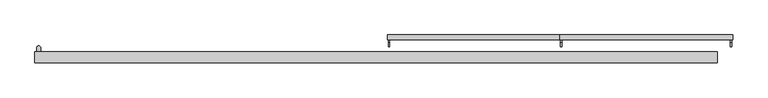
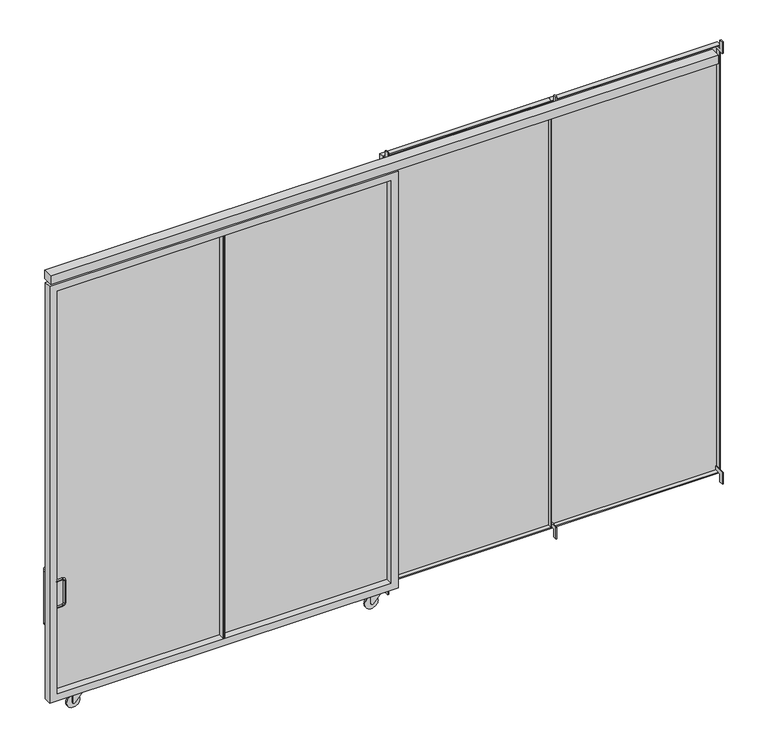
"""IFC4 building model written with IfcOpenShell, lengths in millimetres: furniture geometry, H05 Protección 4 módulos Corredizo lateral : H05 Protección 4 módulos Corredizo lateral 450x315."""

import ifcopenshell
import ifcopenshell.guid

model = None  # the IFC model being written
_history = None  # IfcOwnerHistory: only IFC2X3 demands one
_inside = {}  # id of a spatial element -> (the spatial element, [elements in it])
_under = {}  # id of a project, library or spatial element -> (it, [spatial elements below it])
_declared = {}  # id of a project -> (the project, [libraries it declares])
_typed = {}  # id of a type object -> (the type object, [elements of that type])
_made_of = {}  # id of a material, layer set ... -> (it, [elements and type objects made of it])


def new_model(schema):
    """Start an empty IFC model of exactly this schema.

    Asked for "IFC4X3", IfcOpenShell would pick the latest addendum, in which some entities
    have other attributes; the version numbers below select the first issue.
    IFC2X3 requires an IfcOwnerHistory on every rooted entity: one is made here for all.
    """
    global model, _history
    if schema == "IFC4X3":
        model = ifcopenshell.file(schema_version=(4, 3, 0, 0))
    else:
        model = ifcopenshell.file(schema=schema)
    _inside.clear()
    _under.clear()
    _declared.clear()
    _typed.clear()
    _made_of.clear()
    _history = None
    if model.schema == "IFC2X3":
        org = make("IfcOrganization", Name="unknown")
        user = make(
            "IfcPersonAndOrganization",
            ThePerson=make("IfcPerson", FamilyName="unknown"),
            TheOrganization=org,
        )
        app = make(
            "IfcApplication",
            ApplicationDeveloper=org,
            Version="unknown",
            ApplicationFullName="unknown",
            ApplicationIdentifier="unknown",
        )
        _history = make(
            "IfcOwnerHistory",
            OwningUser=user,
            OwningApplication=app,
            ChangeAction="ADDED",
            CreationDate=0,
        )
    return model


def make(cls, **values):
    """One entity of the class cls with the attributes given. An attribute that is None is left unset."""
    return model.create_entity(
        cls, **{name: value for name, value in values.items() if value is not None}
    )


def rooted(cls, **values):
    """An entity with a GlobalId (a new one), such as an element, a storey or a relation."""
    return make(cls, GlobalId=ifcopenshell.guid.new(), OwnerHistory=_history, **values)


def si_unit(unit_type, name, prefix=None):
    """IfcSIUnit, for example si_unit("LENGTHUNIT", "METRE", prefix="MILLI")."""
    return make("IfcSIUnit", UnitType=unit_type, Prefix=prefix, Name=name)


def assignment(units):
    """IfcUnitAssignment: the units of a project."""
    return None if units is None else make("IfcUnitAssignment", Units=units)


def point(xyz):
    """IfcCartesianPoint."""
    return None if xyz is None else make("IfcCartesianPoint", Coordinates=xyz)


def direction(xyz):
    """IfcDirection."""
    return None if xyz is None else make("IfcDirection", DirectionRatios=xyz)


def frame(location, z_axis=None, x_axis=None):
    """IfcAxis2Placement3D, a coordinate frame: its origin and axes. An axis left out is left unset."""
    return make(
        "IfcAxis2Placement3D",
        Location=point(location),
        Axis=direction(z_axis),
        RefDirection=direction(x_axis),
    )


def frame_2d(location, x_axis=None):
    """IfcAxis2Placement2D, a coordinate frame in the plane: its origin and x axis."""
    return make(
        "IfcAxis2Placement2D", Location=point(location), RefDirection=direction(x_axis)
    )


def origin():
    """The frame at (0, 0, 0) with its axes left unset."""
    return frame((0.0, 0.0, 0.0))


def place(relative_to, where):
    """IfcLocalPlacement: puts the frame where relative to a parent placement (None: the world)."""
    return make(
        "IfcLocalPlacement", PlacementRelTo=relative_to, RelativePlacement=where
    )


def context(
    kind, dimensions, precision=None, world=None, true_north=None, identifier=None
):
    """IfcGeometricRepresentationContext, for example the 3D "Model" context."""
    return make(
        "IfcGeometricRepresentationContext",
        ContextIdentifier=identifier,
        ContextType=kind,
        CoordinateSpaceDimension=dimensions,
        Precision=precision,
        WorldCoordinateSystem=world,
        TrueNorth=true_north,
    )


def project(units=None, contexts=None):
    """IfcProject with its units and contexts."""
    return rooted(
        "IfcProject",
        Name="project",
        RepresentationContexts=contexts,
        UnitsInContext=assignment(units),
    )


def spatial(cls, under=None, at=None, **own):
    """A site, building, storey or space (cls), placed at a placement, below another one or the project."""
    s = rooted(cls, ObjectPlacement=at, **own)
    if under is not None:
        _under.setdefault(under.id(), (under, []))[1].append(s)
    return s


def polyline(points):
    """IfcPolyline through the points."""
    return make("IfcPolyline", Points=[point(p) for p in points])


def circle_curve(where, radius):
    """IfcCircle in the frame where."""
    return make("IfcCircle", Position=where, Radius=radius)


def ellipse_curve(where, semi_axis1, semi_axis2):
    """IfcEllipse in the frame where."""
    return make(
        "IfcEllipse", Position=where, SemiAxis1=semi_axis1, SemiAxis2=semi_axis2
    )


def trimmed(basis, trim1, trim2, sense, master):
    """IfcTrimmedCurve: the piece of a basis curve between two trims."""
    return make(
        "IfcTrimmedCurve",
        BasisCurve=basis,
        Trim1=trim1,
        Trim2=trim2,
        SenseAgreement=sense,
        MasterRepresentation=master,
    )


def segment(curve, same_sense, transition):
    """IfcCompositeCurveSegment."""
    return make(
        "IfcCompositeCurveSegment",
        Transition=transition,
        SameSense=same_sense,
        ParentCurve=curve,
    )


def composite_curve(segments, self_intersect=None):
    """IfcCompositeCurve: segments joined end to end."""
    return make("IfcCompositeCurve", Segments=segments, SelfIntersect=self_intersect)


def outline(outer, holes=None, kind="AREA"):
    """IfcArbitraryClosedProfileDef: a profile drawn as a closed curve; with holes, ...WithVoids."""
    if holes is None:
        return make("IfcArbitraryClosedProfileDef", ProfileType=kind, OuterCurve=outer)
    return make(
        "IfcArbitraryProfileDefWithVoids",
        ProfileType=kind,
        OuterCurve=outer,
        InnerCurves=holes,
    )


def extrude(swept, where, along, depth):
    """IfcExtrudedAreaSolid: the profile swept, set in the frame where, extruded along a direction by depth."""
    return make(
        "IfcExtrudedAreaSolid",
        SweptArea=swept,
        Position=where,
        ExtrudedDirection=direction(along),
        Depth=depth,
    )


def shape(context_of_items, identifier, shape_type, items):
    """IfcShapeRepresentation: the items that make up one representation, for example the "Body"."""
    return make(
        "IfcShapeRepresentation",
        ContextOfItems=context_of_items,
        RepresentationIdentifier=identifier,
        RepresentationType=shape_type,
        Items=items,
    )


def source(mapping_origin, context_of_items, identifier, shape_type, items):
    """IfcRepresentationMap: a shape defined once, which mapped items show again and again."""
    return make(
        "IfcRepresentationMap",
        MappingOrigin=mapping_origin,
        MappedRepresentation=shape(context_of_items, identifier, shape_type, items),
    )


def transform(
    local_origin,
    x_axis=None,
    y_axis=None,
    z_axis=None,
    scale=None,
    scale2=None,
    scale3=None,
    uniform=True,
):
    """IfcCartesianTransformationOperator3D, or its non-uniform kind. x_axis, y_axis, z_axis: its Axis1, 2, 3."""
    if uniform:
        return make(
            "IfcCartesianTransformationOperator3D",
            Axis1=direction(x_axis),
            Axis2=direction(y_axis),
            LocalOrigin=point(local_origin),
            Scale=scale,
            Axis3=direction(z_axis),
        )
    return make(
        "IfcCartesianTransformationOperator3DnonUniform",
        Axis1=direction(x_axis),
        Axis2=direction(y_axis),
        LocalOrigin=point(local_origin),
        Scale=scale,
        Axis3=direction(z_axis),
        Scale2=scale2,
        Scale3=scale3,
    )


def mapped(mapping_source, mapping_target):
    """IfcMappedItem: shows the shape of a source again, moved by a transform."""
    return make(
        "IfcMappedItem", MappingSource=mapping_source, MappingTarget=mapping_target
    )


def made_of(thing, what):
    """Note that an element or type object is made of a material, layer set ...; save() writes the relation."""
    if what is not None:
        _made_of.setdefault(what.id(), (what, []))[1].append(thing)
    return thing


def element(
    cls,
    number,
    at=None,
    inside=None,
    cuts=None,
    type_object=None,
    material=None,
    context=None,
    identifier="Body",
    shape_type=None,
    held_by="IfcProductDefinitionShape",
    body=None,
    shapes=None,
    **own,
):
    """One element of the class cls, such as IfcWall. Its Tag is "e" and its number.

    at: its placement. inside: the storey or other place that contains it. cuts: it is an
    opening in that element (IfcRelVoidsElement). A single representation is given by context,
    identifier, shape_type and body (its items); several are given by shapes. held_by: the class
    of the entity that holds the representations. save() writes the other relations.
    """
    e = rooted(cls, Tag="e%d" % number, ObjectPlacement=at, **own)
    if body is not None:
        shapes = [shape(context, identifier, shape_type, body)]
    if shapes is not None:
        e.Representation = make(held_by, Representations=shapes)
    if inside is not None:
        _inside.setdefault(inside.id(), (inside, []))[1].append(e)
    if cuts is not None:
        rooted(
            "IfcRelVoidsElement", RelatingBuildingElement=cuts, RelatedOpeningElement=e
        )
    if type_object is not None:
        _typed.setdefault(type_object.id(), (type_object, []))[1].append(e)
    return made_of(e, material)


def aggregate(whole, parts):
    """IfcRelAggregates: a whole, such as a stair, and the parts it consists of."""
    return rooted("IfcRelAggregates", RelatingObject=whole, RelatedObjects=parts)


def save(model, path):
    """Write the relations noted so far, then the file.

    IfcRelAggregates (storeys below a building ...), IfcRelContainedInSpatialStructure (elements
    in a storey), IfcRelDefinesByType, IfcRelAssociatesMaterial and IfcRelDeclares: one each for
    every whole, place, type object, material and project.
    """
    for whole, parts in _under.values():
        aggregate(whole, parts)
    for where, things in _inside.values():
        rooted(
            "IfcRelContainedInSpatialStructure",
            RelatedElements=things,
            RelatingStructure=where,
        )
    for kind, things in _typed.values():
        rooted("IfcRelDefinesByType", RelatedObjects=things, RelatingType=kind)
    for what, things in _made_of.values():
        rooted("IfcRelAssociatesMaterial", RelatedObjects=things, RelatingMaterial=what)
    for by, libraries in _declared.values():
        rooted("IfcRelDeclares", RelatingContext=by, RelatedDefinitions=libraries)
    model.write(path)


def plane_surface(at):
    """IfcPlane: the flat surface through the origin of the frame at, square to its z axis."""
    return make("IfcPlane", Position=at)


def cylinder_surface(at, radius):
    """IfcCylindricalSurface: all points at the distance radius from the z axis of the frame at."""
    return make("IfcCylindricalSurface", Position=at, Radius=radius)


def revolved_surface(curve, axis_point, axis_direction):
    """IfcSurfaceOfRevolution: the curve turned about the line through axis_point along axis_direction."""
    return make(
        "IfcSurfaceOfRevolution",
        SweptCurve=make("IfcArbitraryOpenProfileDef", ProfileType="CURVE", Curve=curve),
        AxisPosition=make("IfcAxis1Placement", Location=point(axis_point), Axis=direction(axis_direction)),
    )


def advanced_brep(points, edges, surfaces, faces):
    """IfcAdvancedBrep: a solid bounded by faces that lie on surfaces and meet in shared edges.

    An edge is (start, end): straight between two places in points (the first is 0);
    or (start, end, curve); or (start, end, curve, False) where it runs against its curve.
    A face is (place in surfaces, loops), or (place, loops, False) where it looks against
    its surface's normal. A loop lists edges by number (the first is 1), with a minus sign
    where the edge is run from its end to its start. The first loop is the outer one.
    """
    corners = [point(p) for p in points]
    vertices = [make("IfcVertexPoint", VertexGeometry=c) for c in corners]
    made = []
    for start, end, *more in edges:
        made.append(
            make(
                "IfcEdgeCurve",
                EdgeStart=vertices[start],
                EdgeEnd=vertices[end],
                EdgeGeometry=more[0] if more else make("IfcPolyline", Points=[corners[start], corners[end]]),
                SameSense=more[1] if len(more) > 1 else True,
            )
        )
    hull = []
    for where, loops, *sense in faces:
        bounds = []
        for j, loop in enumerate(loops):
            ring = [make("IfcOrientedEdge", EdgeElement=made[abs(k) - 1], Orientation=k > 0) for k in loop]
            bounds.append(
                make(
                    "IfcFaceOuterBound" if j == 0 else "IfcFaceBound",
                    Bound=make("IfcEdgeLoop", EdgeList=ring),
                    Orientation=True,
                )
            )
        hull.append(make("IfcAdvancedFace", Bounds=bounds, FaceSurface=surfaces[where], SameSense=sense[0] if sense else True))
    return make("IfcAdvancedBrep", Outer=make("IfcClosedShell", CfsFaces=hull))


def furniture_4388585e(model_context):
    return source(origin(), model_context, "Body", "SolidModel", [
        advanced_brep(
        [(-2200.0, -136.0, 949.0), (-2200.0, -124.0, 949.0), (-2158.0, -136.0, 949.0), (-2158.0, -124.0, 949.0), (-2144.0, -124.0, 935.0), (-2144.0, -136.0, 935.0), (-2144.0, -136.0, 775.0), (-2144.0, -124.0, 775.0), (-2200.0, -136.0, 761.0), (-2200.0, -124.0, 761.0), (-2158.0, -124.0, 761.0), (-2158.0, -136.0, 761.0)],
        [
            (0, 1, circle_curve(frame((-2200.0, -130.0, 949.0), z_axis=(-1.0, 0.0, 0.0), x_axis=(0.0, 1.0, 0.0)), 6.0)),
            (1, 0, circle_curve(frame((-2200.0, -130.0, 949.0), z_axis=(-1.0, 0.0, 0.0), x_axis=(0.0, 1.0, 0.0)), 6.0)),
            (0, 2),
            (2, 3, circle_curve(frame((-2158.0, -130.0, 949.0), z_axis=(-1.0, 0.0, 0.0), x_axis=(0.0, 1.0, 0.0)), 6.0)),
            (3, 1),
            (3, 2, circle_curve(frame((-2158.0, -130.0, 949.0), z_axis=(-1.0, 0.0, 0.0), x_axis=(0.0, 1.0, 0.0)), 6.0)),
            (4, 5, circle_curve(frame((-2144.0, -130.0, 935.0), z_axis=(0.0, 0.0, -1.0), x_axis=(0.0, 1.0, 0.0)), 6.0)),
            (5, 6),
            (6, 7, circle_curve(frame((-2144.0, -130.0, 775.0), z_axis=(0.0, 0.0, 1.0), x_axis=(0.0, 1.0, 0.0)), 6.0)),
            (7, 4),
            (5, 4, circle_curve(frame((-2144.0, -130.0, 935.0), z_axis=(0.0, 0.0, -1.0), x_axis=(0.0, 1.0, 0.0)), 6.0)),
            (7, 6, circle_curve(frame((-2144.0, -130.0, 775.0), z_axis=(0.0, 0.0, 1.0), x_axis=(0.0, 1.0, 0.0)), 6.0)),
            (8, 9, circle_curve(frame((-2200.0, -130.0, 761.0), z_axis=(-1.0, 0.0, 0.0), x_axis=(0.0, 1.0, 0.0)), 6.0)),
            (9, 8, circle_curve(frame((-2200.0, -130.0, 761.0), z_axis=(-1.0, 0.0, 0.0), x_axis=(0.0, 1.0, 0.0)), 6.0)),
            (10, 11, circle_curve(frame((-2158.0, -130.0, 761.0), z_axis=(-1.0, 0.0, 0.0), x_axis=(0.0, 1.0, 0.0)), 6.0)),
            (11, 8),
            (9, 10),
            (11, 10, circle_curve(frame((-2158.0, -130.0, 761.0), z_axis=(-1.0, 0.0, 0.0), x_axis=(0.0, 1.0, 0.0)), 6.0)),
            (4, 3, circle_curve(frame((-2158.0, -124.0, 935.0), z_axis=(0.0, -1.0, 0.0), x_axis=(0.0, 0.0, 1.0)), 14.0)),
            (2, 5, circle_curve(frame((-2158.0, -136.0, 935.0), z_axis=(0.0, 1.0, 0.0), x_axis=(0.0, 0.0, 1.0)), 14.0)),
            (10, 7, circle_curve(frame((-2158.0, -124.0, 775.0), z_axis=(0.0, -1.0, 0.0), x_axis=(1.0, 0.0, 0.0)), 14.0)),
            (6, 11, circle_curve(frame((-2158.0, -136.0, 775.0), z_axis=(0.0, 1.0, 0.0), x_axis=(1.0, 0.0, 0.0)), 14.0)),
        ],
        [
            plane_surface(frame((-2200.0, -130.0, 955.0), z_axis=(-1.0, 0.0, 0.0), x_axis=(0.0, 1.0, 0.0))),
            cylinder_surface(frame((-2200.0, -130.0, 949.0), z_axis=(-1.0, 0.0, 0.0), x_axis=(0.0, 1.0, 0.0)), 6.0),
            cylinder_surface(frame((-2144.0, -130.0, 935.0), z_axis=(0.0, 0.0, 1.0), x_axis=(0.0, 1.0, 0.0)), 6.0),
            plane_surface(frame((-2200.0, -130.0, 755.0), z_axis=(-1.0, 0.0, 0.0), x_axis=(0.0, 1.0, 0.0))),
            cylinder_surface(frame((-2158.0, -130.0, 761.0), z_axis=(1.0, 0.0, 0.0), x_axis=(0.0, 1.0, 0.0)), 6.0),
            revolved_surface(trimmed(ellipse_curve(frame((-2158.0, -130.0, 949.0), z_axis=(-1.0, 0.0, 0.0), x_axis=(0.0, 1.0, 0.0)), 6.0, 6.0), [point((-2158.0, -136.0, 949.0))], [point((-2158.0, -124.0, 949.0))], True, "CARTESIAN"), (-2158.0, -130.0, 935.0), (0.0, 1.0, 0.0)),
            revolved_surface(trimmed(ellipse_curve(frame((-2158.0, -130.0, 949.0), z_axis=(-1.0, 0.0, 0.0), x_axis=(0.0, 1.0, 0.0)), 6.0, 6.0), [point((-2158.0, -124.0, 949.0))], [point((-2158.0, -136.0, 949.0))], True, "CARTESIAN"), (-2158.0, -130.0, 935.0), (0.0, 1.0, 0.0)),
            revolved_surface(trimmed(ellipse_curve(frame((-2144.0, -130.0, 775.0), z_axis=(0.0, 0.0, 1.0), x_axis=(0.0, 1.0, 0.0)), 6.0, 6.0), [point((-2144.0, -136.0, 775.0))], [point((-2144.0, -124.0, 775.0))], True, "CARTESIAN"), (-2158.0, -130.0, 775.0), (0.0, 1.0, 0.0)),
            revolved_surface(trimmed(ellipse_curve(frame((-2144.0, -130.0, 775.0), z_axis=(0.0, 0.0, 1.0), x_axis=(0.0, 1.0, 0.0)), 6.0, 6.0), [point((-2144.0, -124.0, 775.0))], [point((-2144.0, -136.0, 775.0))], True, "CARTESIAN"), (-2158.0, -130.0, 775.0), (0.0, 1.0, 0.0)),
        ],
        [
            (0, [[1, 2]]),
            (1, [[-1, 3, 4, 5]]),
            (1, [[-2, -5, 6, -3]]),
            (2, [[7, 8, 9, 10]]),
            (2, [[11, -10, 12, -8]]),
            (3, [[13, 14]]),
            (4, [[15, 16, -14, 17]]),
            (4, [[18, -17, -13, -16]]),
            (5, [[19, -4, 20, -7]]),
            (6, [[-20, -6, -19, -11]]),
            (7, [[21, -9, 22, -15]]),
            (8, [[-22, -12, -21, -18]]),
        ],
    ),
        advanced_brep(
        [(-2237.7, -90.0, 987.0), (-2212.3, -90.0, 987.0), (-2212.3, -52.7, 987.0), (-2237.7, -52.7, 987.0), (-2212.3, -52.7, 612.4), (-2237.7, -52.7, 612.4), (-2237.7, -90.0, 612.4), (-2212.3, -90.0, 612.4)],
        [
            (0, 1, circle_curve(frame((-2225.0, -90.0, 987.0), z_axis=(0.0, -1.0, 0.0), x_axis=(1.0, 0.0, 0.0)), 12.7)),
            (1, 0, circle_curve(frame((-2225.0, -90.0, 987.0), z_axis=(0.0, -1.0, 0.0), x_axis=(1.0, 0.0, 0.0)), 12.7)),
            (1, 2),
            (2, 3, ellipse_curve(frame((-2225.0, -52.7, 987.0), z_axis=(0.0, -0.7071067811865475, 0.7071067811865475), x_axis=(0.0, -0.7071067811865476, -0.7071067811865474)), 17.9605122, 12.7)),
            (3, 0),
            (3, 2, ellipse_curve(frame((-2225.0, -52.7, 987.0), z_axis=(0.0, -0.7071067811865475, 0.7071067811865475), x_axis=(0.0, -0.7071067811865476, -0.7071067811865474)), 17.9605122, 12.7)),
            (2, 4),
            (4, 5, ellipse_curve(frame((-2225.0, -52.7, 612.4), z_axis=(0.0, 0.7071067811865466, 0.7071067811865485), x_axis=(0.0, -0.7071067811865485, 0.7071067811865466)), 17.9605122, 12.7)),
            (5, 3),
            (5, 4, ellipse_curve(frame((-2225.0, -52.7, 612.4), z_axis=(0.0, 0.7071067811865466, 0.7071067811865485), x_axis=(0.0, -0.7071067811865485, 0.7071067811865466)), 17.9605122, 12.7)),
            (6, 7, circle_curve(frame((-2225.0, -90.0, 612.4), z_axis=(0.0, -1.0, 0.0), x_axis=(1.0, 0.0, 0.0)), 12.7)),
            (7, 6, circle_curve(frame((-2225.0, -90.0, 612.4), z_axis=(0.0, -1.0, 0.0), x_axis=(1.0, 0.0, 0.0)), 12.7)),
            (4, 7),
            (6, 5),
        ],
        [
            plane_surface(frame((-2225.0, -90.0, 999.7), z_axis=(0.0, -1.0, 0.0), x_axis=(1.0, 0.0, 0.0))),
            cylinder_surface(frame((-2225.0, -90.0, 987.0), z_axis=(0.0, -1.0, 0.0), x_axis=(1.0, 0.0, 0.0)), 12.7),
            cylinder_surface(frame((-2225.0, -52.7, 999.7), z_axis=(0.0, 0.0, 1.0), x_axis=(1.0, 0.0, 0.0)), 12.7),
            plane_surface(frame((-2225.0, -90.0, 599.7), z_axis=(0.0, -1.0, 0.0), x_axis=(1.0, 0.0, 0.0))),
            cylinder_surface(frame((-2225.0, -40.0, 612.4), z_axis=(0.0, 1.0, 0.0), x_axis=(1.0, 0.0, 0.0)), 12.7),
        ],
        [
            (0, [[1, 2]]),
            (1, [[3, 4, 5, -2]]),
            (1, [[-5, 6, -3, -1]]),
            (2, [[7, 8, 9, -4]]),
            (2, [[-9, 10, -7, -6]]),
            (3, [[11, 12]]),
            (4, [[13, -11, 14, -8]]),
            (4, [[-14, -12, -13, -10]]),
        ],
    ),
        extrude(outline(polyline([(-10.0, -127.0), (-80.0, -127.0), (-80.0, -103.0), (-10.0, -103.0), (-10.0, -127.0)])), frame((0.0, 0.0, 102.0), z_axis=(0.0, 0.0, 1.0), x_axis=(1.0, 0.0, 0.0)), (0.0, 0.0, 1.0), 3.0),
        extrude(outline(composite_curve([segment(polyline([(105.0, -80.0), (45.0, -80.0)]), True, "CONTINUOUS"), segment(trimmed(circle_curve(frame_2d((45.0, -70.0)), 10.0), [point((45.0, -80.0))], [point((38.2006885, -62.6672404))], False, "CARTESIAN"), True, "CONTINUOUS"), segment(polyline([(38.2006885, -62.6672404), (95.0, -10.0), (105.0, -10.0), (105.0, -80.0)]), True, "CONTINUOUS")], self_intersect=False)), frame((0.0, -130.0, 0.0), z_axis=(0.0, 1.0, 0.0), x_axis=(0.0, 0.0, 1.0)), (0.0, 0.0, 1.0), 3.0),
        extrude(outline(composite_curve([segment(polyline([(105.0, -80.0), (45.0, -80.0)]), True, "CONTINUOUS"), segment(trimmed(circle_curve(frame_2d((45.0, -70.0)), 10.0), [point((45.0, -80.0))], [point((38.2006885, -62.6672404))], False, "CARTESIAN"), True, "CONTINUOUS"), segment(polyline([(38.2006885, -62.6672404), (95.0, -10.0), (105.0, -10.0), (105.0, -80.0)]), True, "CONTINUOUS")], self_intersect=False)), frame((0.0, -103.0, 0.0), z_axis=(0.0, 1.0, 0.0), x_axis=(0.0, 0.0, 1.0)), (0.0, 0.0, 1.0), 3.0),
        extrude(outline(composite_curve([segment(trimmed(circle_curve(frame_2d((45.0, -70.0)), 45.0), [point((45.0, -115.0))], [point((45.0, -25.0))], False, "CARTESIAN"), True, "CONTINUOUS"), segment(trimmed(circle_curve(frame_2d((45.0, -70.0)), 45.0), [point((45.0, -25.0))], [point((45.0, -115.0))], False, "CARTESIAN"), True, "CONTINUOUS")], self_intersect=False)), frame((0.0, -120.0, 0.0), z_axis=(0.0, 1.0, 0.0), x_axis=(0.0, 0.0, 1.0)), (0.0, 0.0, 1.0), 10.0),
        extrude(outline(polyline([(-2020.0, -127.0), (-2090.0, -127.0), (-2090.0, -103.0), (-2020.0, -103.0), (-2020.0, -127.0)])), frame((0.0, 0.0, 102.0), z_axis=(0.0, 0.0, 1.0), x_axis=(1.0, 0.0, 0.0)), (0.0, 0.0, 1.0), 3.0),
        extrude(outline(composite_curve([segment(polyline([(105.0, -2090.0), (45.0, -2090.0)]), True, "CONTINUOUS"), segment(trimmed(circle_curve(frame_2d((45.0, -2080.0)), 10.0), [point((45.0, -2090.0))], [point((38.2006885, -2072.6672404))], False, "CARTESIAN"), True, "CONTINUOUS"), segment(polyline([(38.2006885, -2072.6672404), (95.0, -2020.0), (105.0, -2020.0), (105.0, -2090.0)]), True, "CONTINUOUS")], self_intersect=False)), frame((0.0, -130.0, 0.0), z_axis=(0.0, 1.0, 0.0), x_axis=(0.0, 0.0, 1.0)), (0.0, 0.0, 1.0), 3.0),
        extrude(outline(composite_curve([segment(polyline([(105.0, -2090.0), (45.0, -2090.0)]), True, "CONTINUOUS"), segment(trimmed(circle_curve(frame_2d((45.0, -2080.0)), 10.0), [point((45.0, -2090.0))], [point((38.2006885, -2072.6672404))], False, "CARTESIAN"), True, "CONTINUOUS"), segment(polyline([(38.2006885, -2072.6672404), (95.0, -2020.0), (105.0, -2020.0), (105.0, -2090.0)]), True, "CONTINUOUS")], self_intersect=False)), frame((0.0, -103.0, 0.0), z_axis=(0.0, 1.0, 0.0), x_axis=(0.0, 0.0, 1.0)), (0.0, 0.0, 1.0), 3.0),
        extrude(outline(composite_curve([segment(trimmed(circle_curve(frame_2d((45.0, -2080.0)), 45.0), [point((45.0, -2125.0))], [point((45.0, -2035.0))], False, "CARTESIAN"), True, "CONTINUOUS"), segment(trimmed(circle_curve(frame_2d((45.0, -2080.0)), 45.0), [point((45.0, -2035.0))], [point((45.0, -2125.0))], False, "CARTESIAN"), True, "CONTINUOUS")], self_intersect=False)), frame((0.0, -120.0, 0.0), z_axis=(0.0, 1.0, 0.0), x_axis=(0.0, 0.0, 1.0)), (0.0, 0.0, 1.0), 10.0),
        extrude(outline(polyline([(50.0, -90.0), (50.0, -93.0), (-1071.5, -93.0), (-1071.5, -90.0), (50.0, -90.0)])), frame((0.0, 0.0, 150.0), z_axis=(0.0, 0.0, 1.0), x_axis=(1.0, 0.0, 0.0)), (0.0, 0.0, 1.0), 2870.0),
        extrude(outline(polyline([(-1078.5, -90.0), (-1078.5, -93.0), (-2200.0, -93.0), (-2200.0, -90.0), (-1078.5, -90.0)])), frame((0.0, 0.0, 150.0), z_axis=(0.0, 0.0, 1.0), x_axis=(1.0, 0.0, 0.0)), (0.0, 0.0, 1.0), 2870.0),
        extrude(outline(polyline([(-1071.5, -90.0), (-1071.5, -140.0), (-1075.0, -140.0), (-1075.0, -90.0), (-1071.5, -90.0)])), frame((0.0, 0.0, 150.0), z_axis=(0.0, 0.0, 1.0), x_axis=(1.0, 0.0, 0.0)), (0.0, 0.0, 1.0), 2870.0),
        extrude(outline(polyline([(-1075.0, -90.0), (-1075.0, -140.0), (-1078.5, -140.0), (-1078.5, -90.0), (-1075.0, -90.0)])), frame((0.0, 0.0, 150.0), z_axis=(0.0, 0.0, 1.0), x_axis=(1.0, 0.0, 0.0)), (0.0, 0.0, 1.0), 2870.0),
        extrude(outline(polyline([(3070.0, 100.0), (3070.0, -2250.0), (100.0, -2250.0), (100.0, 100.0), (3070.0, 100.0)]), holes=[polyline([(3020.0, 50.0), (150.0, 50.0), (150.0, -2200.0), (3020.0, -2200.0), (3020.0, 50.0)])]), frame((0.0, -140.0, 0.0), z_axis=(0.0, 1.0, 0.0), x_axis=(0.0, 0.0, 1.0)), (0.0, 0.0, 1.0), 50.0),
        extrude(outline(polyline([(2343.0, 32.0), (2343.0, 29.0), (1216.0, 29.0), (1216.0, 32.0), (2343.0, 32.0)])), frame((0.0, 0.0, 57.0), z_axis=(0.0, 0.0, 1.0), x_axis=(1.0, 0.0, 0.0)), (0.0, 0.0, 1.0), 3036.0),
        extrude(outline(polyline([(3100.0, 2350.0), (3100.0, 1212.5), (50.0, 1212.5), (50.0, 2350.0), (3100.0, 2350.0)]), holes=[polyline([(3093.0, 2343.0), (57.0, 2343.0), (57.0, 1216.0), (3093.0, 1216.0), (3093.0, 2343.0)])]), frame((0.0, 0.0, 0.0), z_axis=(0.0, 1.0, 0.0), x_axis=(0.0, 0.0, 1.0)), (0.0, 0.0, 1.0), 32.0),
        extrude(outline(polyline([(1209.0, 32.0), (1209.0, 29.0), (82.0, 29.0), (82.0, 32.0), (1209.0, 32.0)])), frame((0.0, 0.0, 57.0), z_axis=(0.0, 0.0, 1.0), x_axis=(1.0, 0.0, 0.0)), (0.0, 0.0, 1.0), 3036.0),
        extrude(outline(polyline([(3100.0, 1212.5), (3100.0, 75.0), (50.0, 75.0), (50.0, 1212.5), (3100.0, 1212.5)]), holes=[polyline([(3093.0, 1209.0), (57.0, 1209.0), (57.0, 82.0), (3093.0, 82.0), (3093.0, 1209.0)])]), frame((0.0, 0.0, 0.0), z_axis=(0.0, 1.0, 0.0), x_axis=(0.0, 0.0, 1.0)), (0.0, 0.0, 1.0), 32.0),
        extrude(outline(polyline([(-46.0, 3068.0), (-46.0, 3150.0), (-21.0, 3150.0), (-21.0, 3093.0), (29.0, 3093.0), (29.0, 3068.0), (-46.0, 3068.0)])), frame((82.0, 0.0, 0.0), z_axis=(1.0, 0.0, 0.0), x_axis=(0.0, 1.0, 0.0)), (0.0, 0.0, 1.0), 7.0),
        extrude(outline(polyline([(-46.0, 3068.0), (-46.0, 3150.0), (-21.0, 3150.0), (-21.0, 3093.0), (29.0, 3093.0), (29.0, 3068.0), (-46.0, 3068.0)])), frame((2336.0, 0.0, 0.0), z_axis=(1.0, 0.0, 0.0), x_axis=(0.0, 1.0, 0.0)), (0.0, 0.0, 1.0), 7.0),
        extrude(outline(polyline([(-46.0, 82.0), (29.0, 82.0), (29.0, 57.0), (-21.0, 57.0), (-21.0, 0.0), (-46.0, 0.0), (-46.0, 82.0)])), frame((2336.0, 0.0, 0.0), z_axis=(1.0, 0.0, 0.0), x_axis=(0.0, 1.0, 0.0)), (0.0, 0.0, 1.0), 7.0),
        extrude(outline(polyline([(-46.0, 82.0), (29.0, 82.0), (29.0, 57.0), (-21.0, 57.0), (-21.0, 0.0), (-46.0, 0.0), (-46.0, 82.0)])), frame((82.0, 0.0, 0.0), z_axis=(1.0, 0.0, 0.0), x_axis=(0.0, 1.0, 0.0)), (0.0, 0.0, 1.0), 7.0),
        extrude(outline(polyline([(-46.0, 3068.0), (-46.0, 3150.0), (-21.0, 3150.0), (-21.0, 3093.0), (29.0, 3093.0), (29.0, 3068.0), (-46.0, 3068.0)])), frame((1216.0, 0.0, 0.0), z_axis=(1.0, 0.0, 0.0), x_axis=(0.0, 1.0, 0.0)), (0.0, 0.0, 1.0), 7.0),
        extrude(outline(polyline([(-46.0, 82.0), (29.0, 82.0), (29.0, 57.0), (-21.0, 57.0), (-21.0, 0.0), (-46.0, 0.0), (-46.0, 82.0)])), frame((1216.0, 0.0, 0.0), z_axis=(1.0, 0.0, 0.0), x_axis=(0.0, 1.0, 0.0)), (0.0, 0.0, 1.0), 7.0),
        extrude(outline(polyline([(2250.0, -80.0), (2250.0, -150.0), (-2250.0, -150.0), (-2250.0, -80.0), (2250.0, -80.0)])), frame((0.0, 0.0, 3090.0), z_axis=(0.0, 0.0, 1.0), x_axis=(1.0, 0.0, 0.0)), (0.0, 0.0, 1.0), 60.0),
    ])


if __name__ == "__main__":
    model = new_model("IFC4")
    model_context = context("Model", 3, world=origin())
    ifc_project = project(units=[si_unit("LENGTHUNIT", "METRE", prefix="MILLI")], contexts=[model_context])
    site = spatial("IfcSite", under=ifc_project)
    building = spatial("IfcBuilding", under=site)
    placement = place(None, origin())
    furniture_shape = furniture_4388585e(model_context)
    element("IfcFurniture", 1, ObjectType="H05 Protección 4 módulos Corredizo lateral : H05 Protección 4 módulos Corredizo lateral 450x315", at=placement, inside=building, context=model_context, shape_type="MappedRepresentation", body=[
        mapped(furniture_shape, transform((0.0, 0.0, 0.0), x_axis=(1.0, 0.0, 0.0), y_axis=(0.0, 1.0, 0.0), z_axis=(0.0, 0.0, 1.0))),
    ])
    save(model, "model.ifc")
